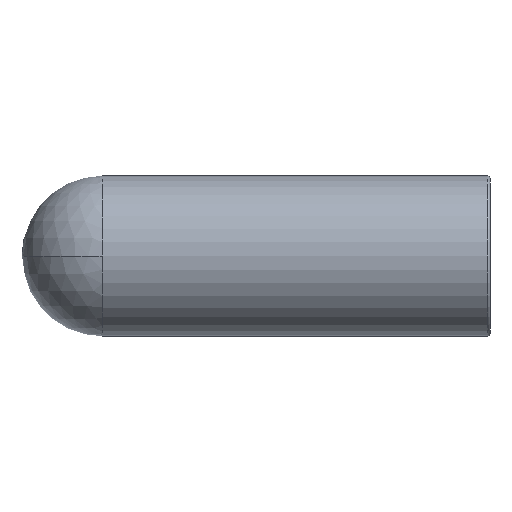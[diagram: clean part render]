
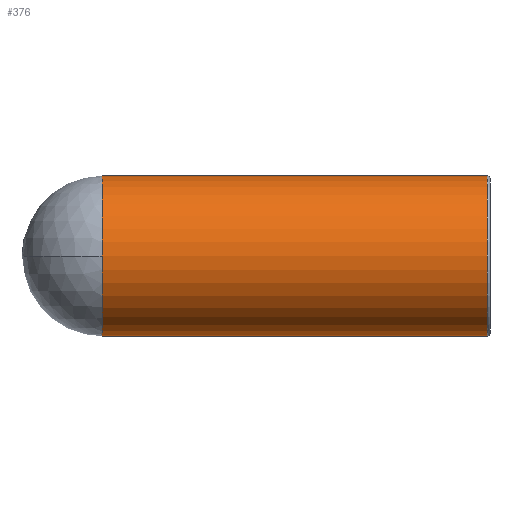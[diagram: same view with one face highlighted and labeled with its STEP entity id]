
A CAD part, left-side view. The second image highlights one B-rep face of the part: STEP entity #376.
In plain terms, the highlighted cylindrical face has radius 7.874 mm (diameter 15.748 mm), a partial arc.
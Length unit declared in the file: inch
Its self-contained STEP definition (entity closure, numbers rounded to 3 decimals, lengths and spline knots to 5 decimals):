
#14 = VERTEX_POINT ( 'NONE', #380 ) ;
#16 = DIRECTION ( 'NONE',  ( 0., -1., 0. ) ) ;
#18 = VECTOR ( 'NONE', #416, 39.37008 ) ;
#23 = CARTESIAN_POINT ( 'NONE',  ( 0., 0.01, 0. ) ) ;
#29 = CARTESIAN_POINT ( 'NONE',  ( 0., 1.5, 0.31 ) ) ;
#40 = VECTOR ( 'NONE', #16, 39.37008 ) ;
#47 = EDGE_CURVE ( 'NONE', #385, #349, #282, .T. ) ;
#55 = CIRCLE ( 'NONE', #342, 0.31 ) ;
#60 = AXIS2_PLACEMENT_3D ( 'NONE', #373, #204, #104 ) ;
#61 = CARTESIAN_POINT ( 'NONE',  ( 0., 1.5, 0. ) ) ;
#63 = DIRECTION ( 'NONE',  ( 0., 0., -1. ) ) ;
#80 = ORIENTED_EDGE ( 'NONE', *, *, #140, .F. ) ;
#100 = DIRECTION ( 'NONE',  ( 0., 0., -1. ) ) ;
#104 = DIRECTION ( 'NONE',  ( 0., 0., -1. ) ) ;
#116 = LINE ( 'NONE', #310, #18 ) ;
#120 = DIRECTION ( 'NONE',  ( 0., -1., 0. ) ) ;
#129 = CARTESIAN_POINT ( 'NONE',  ( 0., 0.01, 0.31 ) ) ;
#140 = EDGE_CURVE ( 'NONE', #385, #160, #339, .T. ) ;
#149 = EDGE_LOOP ( 'NONE', ( #80, #328, #162, #278, #340 ) ) ;
#160 = VERTEX_POINT ( 'NONE', #129 ) ;
#162 = ORIENTED_EDGE ( 'NONE', *, *, #283, .T. ) ;
#204 = DIRECTION ( 'NONE',  ( 0., -1., 0. ) ) ;
#211 = CYLINDRICAL_SURFACE ( 'NONE', #60, 0.31 ) ;
#224 = AXIS2_PLACEMENT_3D ( 'NONE', #23, #275, #63 ) ;
#269 = CARTESIAN_POINT ( 'NONE',  ( 0., 0., 0.31 ) ) ;
#275 = DIRECTION ( 'NONE',  ( 0., 1., 0. ) ) ;
#278 = ORIENTED_EDGE ( 'NONE', *, *, #401, .T. ) ;
#282 = CIRCLE ( 'NONE', #285, 0.31 ) ;
#283 = EDGE_CURVE ( 'NONE', #349, #14, #55, .T. ) ;
#285 = AXIS2_PLACEMENT_3D ( 'NONE', #325, #120, #357 ) ;
#303 = DIRECTION ( 'NONE',  ( 0., -1., 0. ) ) ;
#304 = CARTESIAN_POINT ( 'NONE',  ( -0.31, 1.5, 0. ) ) ;
#310 = CARTESIAN_POINT ( 'NONE',  ( 0., 0., -0.31 ) ) ;
#319 = CIRCLE ( 'NONE', #224, 0.31 ) ;
#325 = CARTESIAN_POINT ( 'NONE',  ( 0., 1.5, 0. ) ) ;
#328 = ORIENTED_EDGE ( 'NONE', *, *, #47, .T. ) ;
#329 = EDGE_CURVE ( 'NONE', #397, #160, #319, .T. ) ;
#339 = LINE ( 'NONE', #269, #40 ) ;
#340 = ORIENTED_EDGE ( 'NONE', *, *, #329, .T. ) ;
#342 = AXIS2_PLACEMENT_3D ( 'NONE', #61, #303, #100 ) ;
#349 = VERTEX_POINT ( 'NONE', #304 ) ;
#357 = DIRECTION ( 'NONE',  ( 0., 0., -1. ) ) ;
#373 = CARTESIAN_POINT ( 'NONE',  ( 0., 0., 0. ) ) ;
#376 = ADVANCED_FACE ( 'NONE', ( #428 ), #211, .T. ) ;
#380 = CARTESIAN_POINT ( 'NONE',  ( 0., 1.5, -0.31 ) ) ;
#385 = VERTEX_POINT ( 'NONE', #29 ) ;
#397 = VERTEX_POINT ( 'NONE', #452 ) ;
#401 = EDGE_CURVE ( 'NONE', #14, #397, #116, .T. ) ;
#416 = DIRECTION ( 'NONE',  ( 0., -1., 0. ) ) ;
#428 = FACE_OUTER_BOUND ( 'NONE', #149, .T. ) ;
#452 = CARTESIAN_POINT ( 'NONE',  ( 0., 0.01, -0.31 ) ) ;
